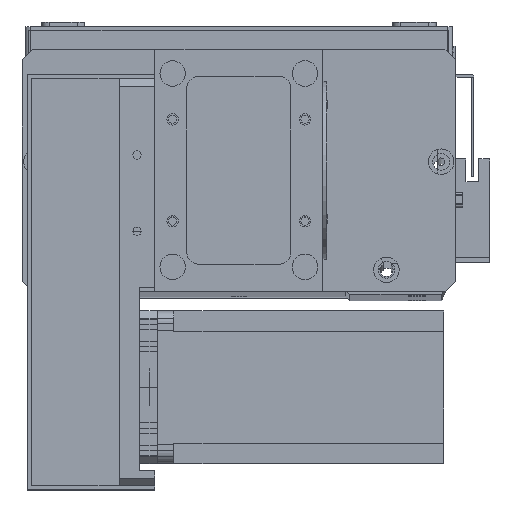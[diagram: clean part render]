
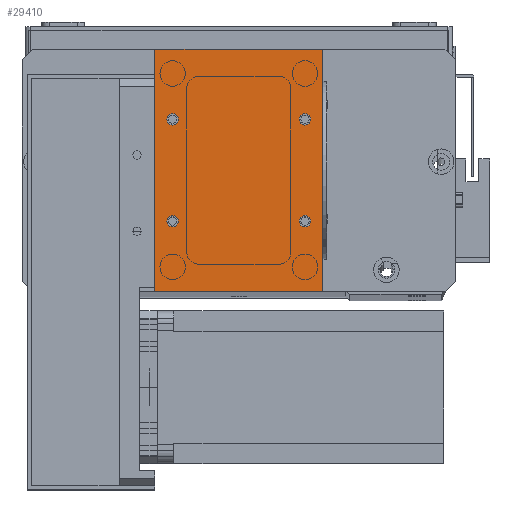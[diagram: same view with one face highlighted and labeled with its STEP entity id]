
A CAD part, top view. The second image highlights one B-rep face of the part: STEP entity #29410.
In plain terms, the highlighted planar face has unit normal (0, 0, 1).
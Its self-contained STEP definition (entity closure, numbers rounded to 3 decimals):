
#50 = CARTESIAN_POINT ( 'NONE',  ( 9.25, 27.5, 2. ) ) ;
#338 = CARTESIAN_POINT ( 'NONE',  ( 0., 0., 2. ) ) ;
#379 = VECTOR ( 'NONE', #5709, 1000. ) ;
#686 = EDGE_CURVE ( 'NONE', #24476, #23679, #15028, .T. ) ;
#952 = VERTEX_POINT ( 'NONE', #10308 ) ;
#1300 = FACE_BOUND ( 'NONE', #31497, .T. ) ;
#1330 = CARTESIAN_POINT ( 'NONE',  ( 66., 0., 2. ) ) ;
#1580 = ORIENTED_EDGE ( 'NONE', *, *, #11713, .F. ) ;
#2040 = DIRECTION ( 'NONE',  ( 1., 0., 0. ) ) ;
#2093 = FACE_BOUND ( 'NONE', #14913, .T. ) ;
#2365 = VERTEX_POINT ( 'NONE', #13692 ) ;
#2383 = ORIENTED_EDGE ( 'NONE', *, *, #10446, .F. ) ;
#2432 = DIRECTION ( 'NONE',  ( 0., 0., 1. ) ) ;
#3442 = LINE ( 'NONE', #1330, #15639 ) ;
#3580 = AXIS2_PLACEMENT_3D ( 'NONE', #21874, #6907, #24362 ) ;
#4747 = CIRCLE ( 'NONE', #3580, 2.25 ) ;
#4940 = CARTESIAN_POINT ( 'NONE',  ( 66., 0., 2. ) ) ;
#5184 = VECTOR ( 'NONE', #17859, 1000. ) ;
#5709 = DIRECTION ( 'NONE',  ( -1., 0., 0. ) ) ;
#5996 = CARTESIAN_POINT ( 'NONE',  ( 59., 67.5, 2. ) ) ;
#6005 = CIRCLE ( 'NONE', #31488, 2.25 ) ;
#6081 = ORIENTED_EDGE ( 'NONE', *, *, #21054, .F. ) ;
#6491 = AXIS2_PLACEMENT_3D ( 'NONE', #17435, #2432, #19947 ) ;
#6584 = VERTEX_POINT ( 'NONE', #19301 ) ;
#6907 = DIRECTION ( 'NONE',  ( 0., 0., 1. ) ) ;
#6961 = ORIENTED_EDGE ( 'NONE', *, *, #13642, .F. ) ;
#6986 = EDGE_LOOP ( 'NONE', ( #6081, #2383 ) ) ;
#7029 = DIRECTION ( 'NONE',  ( 1., 0., 0. ) ) ;
#7064 = LINE ( 'NONE', #30574, #379 ) ;
#7184 = DIRECTION ( 'NONE',  ( 0., 0., -1. ) ) ;
#7987 = FACE_BOUND ( 'NONE', #6986, .T. ) ;
#8085 = DIRECTION ( 'NONE',  ( 0., 0., 1. ) ) ;
#8109 = CARTESIAN_POINT ( 'NONE',  ( 61.25, 67.5, 2. ) ) ;
#8548 = DIRECTION ( 'NONE',  ( 1., 0., 0. ) ) ;
#8689 = CARTESIAN_POINT ( 'NONE',  ( 59., 67.5, 2. ) ) ;
#8823 = DIRECTION ( 'NONE',  ( 0., 0., 1. ) ) ;
#9020 = CARTESIAN_POINT ( 'NONE',  ( 66., 95., 2. ) ) ;
#9042 = DIRECTION ( 'NONE',  ( 0., 0., 1. ) ) ;
#9327 = LINE ( 'NONE', #21478, #23343 ) ;
#9469 = CARTESIAN_POINT ( 'NONE',  ( 0., 0., 2. ) ) ;
#10308 = CARTESIAN_POINT ( 'NONE',  ( 4.75, 67.5, 2. ) ) ;
#10446 = EDGE_CURVE ( 'NONE', #952, #23142, #6005, .T. ) ;
#10622 = VERTEX_POINT ( 'NONE', #50 ) ;
#10676 = CIRCLE ( 'NONE', #31726, 2.25 ) ;
#10680 = AXIS2_PLACEMENT_3D ( 'NONE', #23047, #8085, #25545 ) ;
#10996 = ORIENTED_EDGE ( 'NONE', *, *, #686, .F. ) ;
#11164 = ORIENTED_EDGE ( 'NONE', *, *, #23813, .F. ) ;
#11475 = DIRECTION ( 'NONE',  ( 0., -1., 0. ) ) ;
#11713 = EDGE_CURVE ( 'NONE', #23679, #24476, #10676, .T. ) ;
#12631 = CARTESIAN_POINT ( 'NONE',  ( 59., 27.5, 2. ) ) ;
#13642 = EDGE_CURVE ( 'NONE', #10622, #28746, #16619, .T. ) ;
#13692 = CARTESIAN_POINT ( 'NONE',  ( 56.75, 27.5, 2. ) ) ;
#13825 = DIRECTION ( 'NONE',  ( 0., 1., 0. ) ) ;
#14328 = ORIENTED_EDGE ( 'NONE', *, *, #14713, .T. ) ;
#14648 = FACE_BOUND ( 'NONE', #17238, .T. ) ;
#14713 = EDGE_CURVE ( 'NONE', #16557, #17955, #24350, .T. ) ;
#14913 = EDGE_LOOP ( 'NONE', ( #1580, #10996 ) ) ;
#15028 = CIRCLE ( 'NONE', #15490, 2.25 ) ;
#15140 = DIRECTION ( 'NONE',  ( 1., 0., 0. ) ) ;
#15490 = AXIS2_PLACEMENT_3D ( 'NONE', #8689, #9042, #7029 ) ;
#15562 = CARTESIAN_POINT ( 'NONE',  ( 9.25, 67.5, 2. ) ) ;
#15639 = VECTOR ( 'NONE', #13825, 1000. ) ;
#15903 = CIRCLE ( 'NONE', #6491, 2.25 ) ;
#16273 = EDGE_CURVE ( 'NONE', #23710, #26013, #7064, .T. ) ;
#16557 = VERTEX_POINT ( 'NONE', #9469 ) ;
#16619 = CIRCLE ( 'NONE', #10680, 2.25 ) ;
#16790 = AXIS2_PLACEMENT_3D ( 'NONE', #23756, #8823, #26278 ) ;
#17055 = DIRECTION ( 'NONE',  ( 0., 0., 1. ) ) ;
#17145 = PLANE ( 'NONE',  #19645 ) ;
#17238 = EDGE_LOOP ( 'NONE', ( #21197, #11164 ) ) ;
#17435 = CARTESIAN_POINT ( 'NONE',  ( 7., 67.5, 2. ) ) ;
#17674 = EDGE_CURVE ( 'NONE', #17955, #23710, #3442, .T. ) ;
#17859 = DIRECTION ( 'NONE',  ( 1., 0., 0. ) ) ;
#17955 = VERTEX_POINT ( 'NONE', #4940 ) ;
#19301 = CARTESIAN_POINT ( 'NONE',  ( 61.25, 27.5, 2. ) ) ;
#19645 = AXIS2_PLACEMENT_3D ( 'NONE', #22167, #7184, #24657 ) ;
#19947 = DIRECTION ( 'NONE',  ( 1., 0., 0. ) ) ;
#21054 = EDGE_CURVE ( 'NONE', #23142, #952, #15903, .T. ) ;
#21197 = ORIENTED_EDGE ( 'NONE', *, *, #23012, .F. ) ;
#21478 = CARTESIAN_POINT ( 'NONE',  ( 0., 0., 2. ) ) ;
#21874 = CARTESIAN_POINT ( 'NONE',  ( 59., 27.5, 2. ) ) ;
#22167 = CARTESIAN_POINT ( 'NONE',  ( 0., 0., 2. ) ) ;
#22671 = EDGE_CURVE ( 'NONE', #28746, #10622, #23589, .T. ) ;
#23012 = EDGE_CURVE ( 'NONE', #6584, #2365, #26729, .T. ) ;
#23047 = CARTESIAN_POINT ( 'NONE',  ( 7., 27.5, 2. ) ) ;
#23142 = VERTEX_POINT ( 'NONE', #15562 ) ;
#23343 = VECTOR ( 'NONE', #11475, 1000. ) ;
#23471 = DIRECTION ( 'NONE',  ( 0., 0., 1. ) ) ;
#23589 = CIRCLE ( 'NONE', #16790, 2.25 ) ;
#23679 = VERTEX_POINT ( 'NONE', #8109 ) ;
#23710 = VERTEX_POINT ( 'NONE', #9020 ) ;
#23756 = CARTESIAN_POINT ( 'NONE',  ( 7., 27.5, 2. ) ) ;
#23813 = EDGE_CURVE ( 'NONE', #2365, #6584, #4747, .T. ) ;
#24350 = LINE ( 'NONE', #338, #5184 ) ;
#24362 = DIRECTION ( 'NONE',  ( 1., 0., 0. ) ) ;
#24476 = VERTEX_POINT ( 'NONE', #29434 ) ;
#24657 = DIRECTION ( 'NONE',  ( -1., 0., 0. ) ) ;
#24787 = ORIENTED_EDGE ( 'NONE', *, *, #16273, .T. ) ;
#25107 = ORIENTED_EDGE ( 'NONE', *, *, #22671, .F. ) ;
#25442 = EDGE_LOOP ( 'NONE', ( #31307, #14328, #25899, #24787 ) ) ;
#25545 = DIRECTION ( 'NONE',  ( 1., 0., 0. ) ) ;
#25899 = ORIENTED_EDGE ( 'NONE', *, *, #17674, .T. ) ;
#26013 = VERTEX_POINT ( 'NONE', #28268 ) ;
#26278 = DIRECTION ( 'NONE',  ( 1., 0., 0. ) ) ;
#26729 = CIRCLE ( 'NONE', #27865, 2.25 ) ;
#27146 = FACE_OUTER_BOUND ( 'NONE', #25442, .T. ) ;
#27718 = EDGE_CURVE ( 'NONE', #26013, #16557, #9327, .T. ) ;
#27865 = AXIS2_PLACEMENT_3D ( 'NONE', #12631, #30044, #15140 ) ;
#28268 = CARTESIAN_POINT ( 'NONE',  ( 0., 95., 2. ) ) ;
#28746 = VERTEX_POINT ( 'NONE', #30763 ) ;
#29410 = ADVANCED_FACE ( 'NONE', ( #7987, #2093, #14648, #1300, #27146 ), #17145, .F. ) ;
#29434 = CARTESIAN_POINT ( 'NONE',  ( 56.75, 67.5, 2. ) ) ;
#30044 = DIRECTION ( 'NONE',  ( 0., 0., 1. ) ) ;
#30574 = CARTESIAN_POINT ( 'NONE',  ( 0., 95., 2. ) ) ;
#30763 = CARTESIAN_POINT ( 'NONE',  ( 4.75, 27.5, 2. ) ) ;
#31307 = ORIENTED_EDGE ( 'NONE', *, *, #27718, .T. ) ;
#31488 = AXIS2_PLACEMENT_3D ( 'NONE', #31977, #17055, #2040 ) ;
#31497 = EDGE_LOOP ( 'NONE', ( #6961, #25107 ) ) ;
#31726 = AXIS2_PLACEMENT_3D ( 'NONE', #5996, #23471, #8548 ) ;
#31977 = CARTESIAN_POINT ( 'NONE',  ( 7., 67.5, 2. ) ) ;
